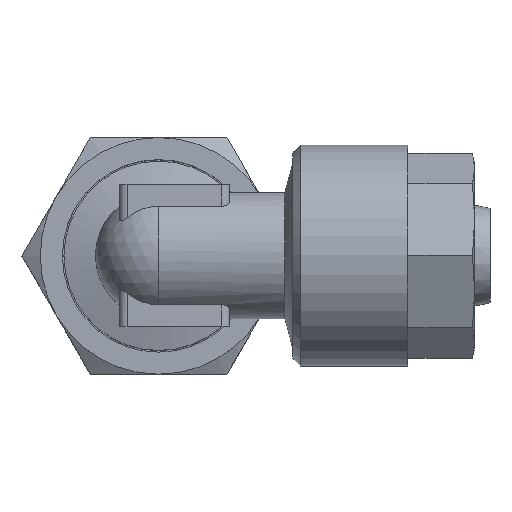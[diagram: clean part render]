
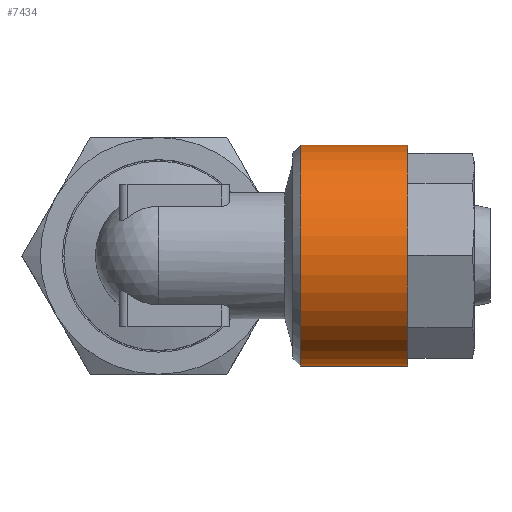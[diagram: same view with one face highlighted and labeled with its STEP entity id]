
A CAD part, top view. The second image highlights one B-rep face of the part: STEP entity #7434.
In plain terms, the highlighted cylindrical face has radius 7 mm (diameter 14 mm), a full revolution.
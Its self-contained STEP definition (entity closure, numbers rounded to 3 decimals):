
#2281=CYLINDRICAL_SURFACE('',#7205,7.);
#2395=ORIENTED_EDGE('',*,*,#2966,.F.);
#2396=ORIENTED_EDGE('',*,*,#2967,.T.);
#2718=CIRCLE('',#7204,7.);
#2719=CIRCLE('',#7206,7.);
#2811=VERTEX_POINT('',#4006);
#2812=VERTEX_POINT('',#4009);
#2966=EDGE_CURVE('',#2811,#2811,#2718,.T.);
#2967=EDGE_CURVE('',#2812,#2812,#2719,.T.);
#3149=EDGE_LOOP('',(#2395));
#3150=EDGE_LOOP('',(#2396));
#3287=FACE_BOUND('',#3149,.T.);
#3288=FACE_BOUND('',#3150,.T.);
#3516=DIRECTION('',(0.,1.,0.));
#3517=DIRECTION('',(0.,0.,7.));
#3518=DIRECTION('',(0.,1.,0.));
#3519=DIRECTION('',(1.,0.,0.));
#3520=DIRECTION('',(0.,1.,0.));
#3521=DIRECTION('',(0.,0.,-7.));
#4006=CARTESIAN_POINT('',(26.989,21.895,7.));
#4007=CARTESIAN_POINT('',(26.989,21.895,0.));
#4008=CARTESIAN_POINT('',(26.989,15.095,0.));
#4009=CARTESIAN_POINT('',(26.989,15.095,-7.));
#4010=CARTESIAN_POINT('',(26.989,15.095,0.));
#7204=AXIS2_PLACEMENT_3D('',#4007,#3516,#3517);
#7205=AXIS2_PLACEMENT_3D('',#4008,#3518,#3519);
#7206=AXIS2_PLACEMENT_3D('',#4010,#3520,#3521);
#7434=ADVANCED_FACE('',(#3287,#3288),#2281,.T.);
